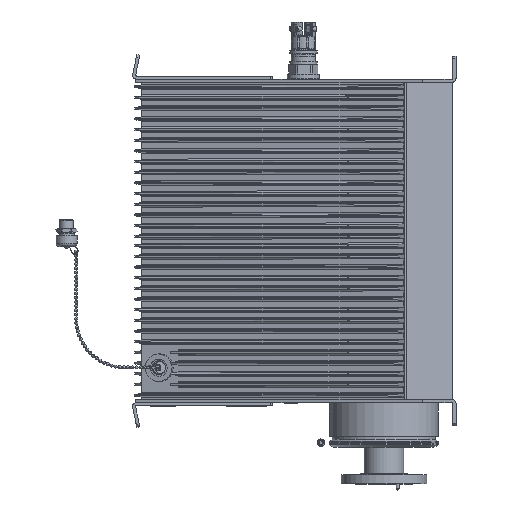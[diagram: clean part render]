
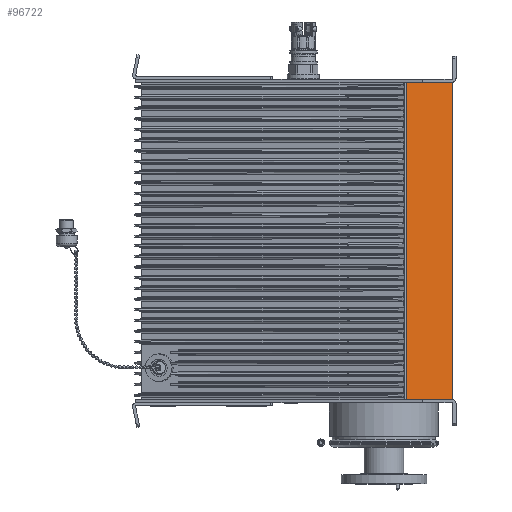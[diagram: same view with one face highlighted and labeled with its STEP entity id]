
A CAD part, top view. The second image highlights one B-rep face of the part: STEP entity #96722.
In plain terms, the highlighted planar face has unit normal (0.629, 0, 0.777).
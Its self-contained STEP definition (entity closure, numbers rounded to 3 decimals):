
#3497=ORIENTED_EDGE('',*,*,#24183,.T.);
#3498=ORIENTED_EDGE('',*,*,#24212,.T.);
#3499=ORIENTED_EDGE('',*,*,#24213,.T.);
#3500=ORIENTED_EDGE('',*,*,#24125,.T.);
#3501=ORIENTED_EDGE('',*,*,#24177,.T.);
#3502=ORIENTED_EDGE('',*,*,#24211,.T.);
#24125=EDGE_CURVE('',#34515,#34514,#41529,.T.);
#24177=EDGE_CURVE('',#34514,#34546,#41572,.T.);
#24183=EDGE_CURVE('',#34552,#34551,#41576,.T.);
#24211=EDGE_CURVE('',#34546,#34552,#41601,.T.);
#24212=EDGE_CURVE('',#34551,#34573,#41602,.T.);
#24213=EDGE_CURVE('',#34573,#34515,#41603,.T.);
#34514=VERTEX_POINT('',#122719);
#34515=VERTEX_POINT('',#122721);
#34546=VERTEX_POINT('',#122821);
#34551=VERTEX_POINT('',#122832);
#34552=VERTEX_POINT('',#122834);
#34573=VERTEX_POINT('',#122893);
#41529=LINE('',#122720,#49645);
#41572=LINE('',#122820,#49688);
#41576=LINE('',#122833,#49692);
#41601=LINE('',#122890,#49717);
#41602=LINE('',#122892,#49718);
#41603=LINE('',#122894,#49719);
#49645=VECTOR('',#105315,1000.);
#49688=VECTOR('',#105410,1000.);
#49692=VECTOR('',#105420,1000.);
#49717=VECTOR('',#105467,1000.);
#49718=VECTOR('',#105470,1000.);
#49719=VECTOR('',#105471,1000.);
#57760=EDGE_LOOP('',(#3497,#3498,#3499,#3500,#3501,#3502));
#62184=FACE_BOUND('',#57760,.T.);
#66594=PLANE('',#100653);
#96722=ADVANCED_FACE('',(#62184),#66594,.T.);
#100653=AXIS2_PLACEMENT_3D('',#122891,#105468,#105469);
#105315=DIRECTION('',(0.777,0.,-0.629));
#105410=DIRECTION('',(0.777,0.,-0.629));
#105420=DIRECTION('',(-0.777,0.,0.629));
#105467=DIRECTION('',(0.,1.,0.));
#105468=DIRECTION('',(0.629,0.,0.777));
#105469=DIRECTION('',(0.,-1.,0.));
#105470=DIRECTION('',(-0.777,0.,0.629));
#105471=DIRECTION('',(0.,-1.,0.));
#122719=CARTESIAN_POINT('',(-3.969,0.,97.628));
#122720=CARTESIAN_POINT('',(-3.619,0.,97.345));
#122721=CARTESIAN_POINT('',(-51.727,0.,136.302));
#122820=CARTESIAN_POINT('',(-3.619,0.,97.345));
#122821=CARTESIAN_POINT('',(-3.905,0.,97.576));
#122832=CARTESIAN_POINT('',(-3.969,330.2,97.628));
#122833=CARTESIAN_POINT('',(-3.619,330.2,97.345));
#122834=CARTESIAN_POINT('',(-3.905,330.2,97.576));
#122890=CARTESIAN_POINT('',(-3.905,0.,97.576));
#122891=CARTESIAN_POINT('',(-3.763,0.,97.461));
#122892=CARTESIAN_POINT('',(-3.763,330.2,97.461));
#122893=CARTESIAN_POINT('',(-51.727,330.2,136.302));
#122894=CARTESIAN_POINT('',(-51.727,330.2,136.302));
